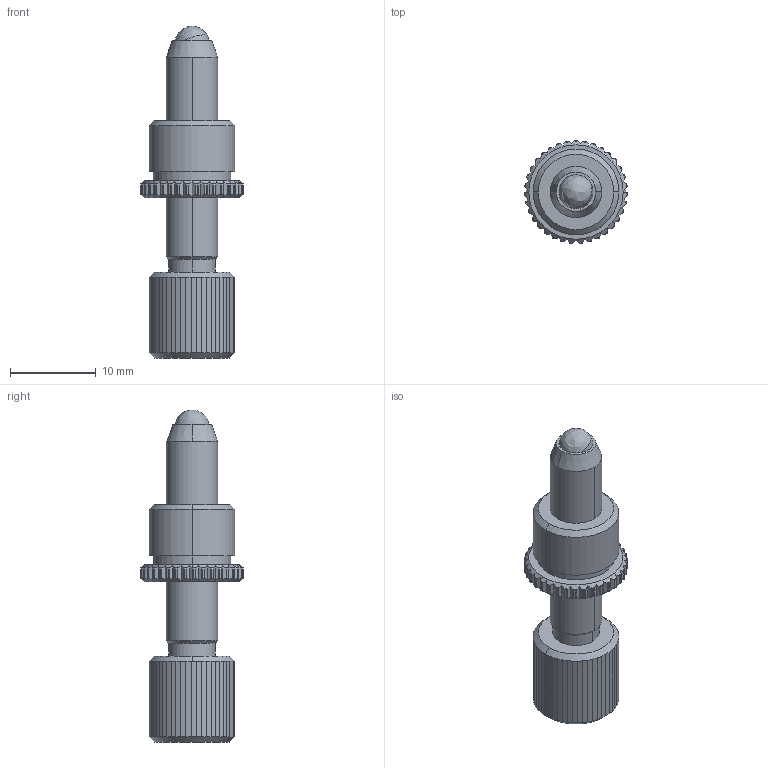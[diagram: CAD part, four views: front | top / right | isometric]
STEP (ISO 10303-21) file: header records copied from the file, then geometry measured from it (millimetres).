
FILE_DESCRIPTION (( 'STEP AP203' ), '1' );
FILE_NAME ('9S7C-18.STEP', '2011-12-02T14:08:27', ( 'Darius' ), ( '' ), 'SwSTEP 2.0', 'SolidWorks 2003240', '' );
FILE_SCHEMA (( 'CONFIG_CONTROL_DESIGN' ));
Length unit declared in the file: millimetre
Products named in the file (1): 9S7C-18
Bounding box: 12 x 11.98 x 38.71 mm (x, y, z)
Volume: 2015.3 mm3; surface area: 1253.3 mm2
Topology: 1 solids, 1 shells, 343 faces, 998 edges, 661 vertices
Faces by surface type: plane 203, cylinder 124, cone 14, bspline 2
Entity records: 11795 total; most frequent: CARTESIAN_POINT 2823, ORIENTED_EDGE 1992, DIRECTION 1774, EDGE_CURVE 996, AXIS2_PLACEMENT_3D 684, VERTEX_POINT 661, LINE 406, VECTOR 406
